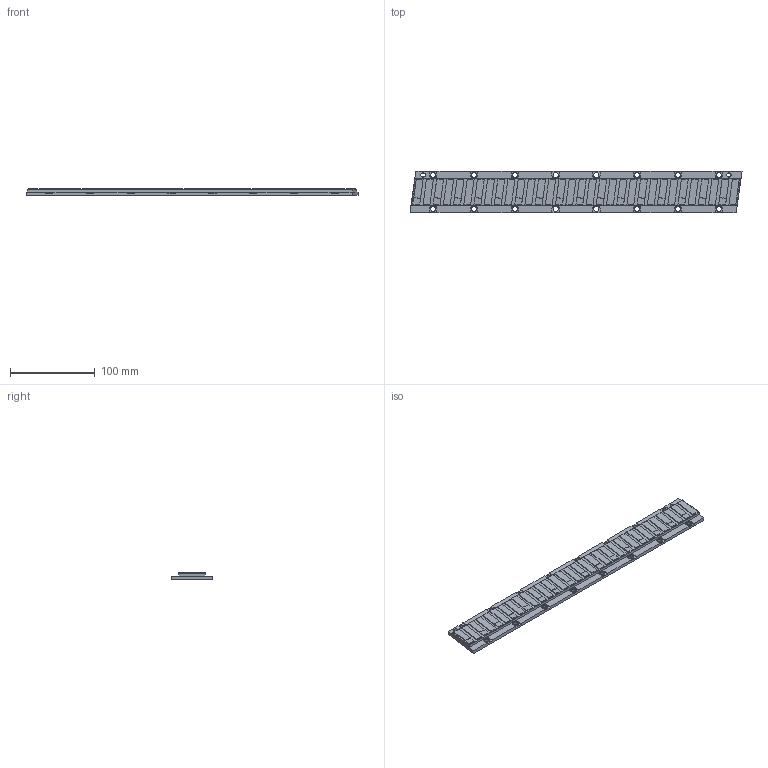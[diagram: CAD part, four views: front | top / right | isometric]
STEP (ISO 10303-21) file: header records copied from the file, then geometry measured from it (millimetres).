
FILE_DESCRIPTION (( 'STEP AP203' ), '1' );
FILE_NAME ('MP49-384.STEP', '2020-12-11T04:59:26', ( '' ), ( '' ), 'SwSTEP 2.0', 'SolidWorks 2018', '' );
FILE_SCHEMA (( 'CONFIG_CONTROL_DESIGN' ));
Length unit declared in the file: millimetre
Products named in the file (1): MP49-384
Bounding box: 390.74 x 49 x 8 mm (x, y, z)
Volume: 115978.8 mm3; surface area: 46281.5 mm2
Topology: 1 solids, 1 shells, 338 faces, 909 edges, 606 vertices
Faces by surface type: plane 285, cylinder 53
Entity records: 10608 total; most frequent: CARTESIAN_POINT 1854, ORIENTED_EDGE 1818, DIRECTION 1693, EDGE_CURVE 909, VECTOR 803, LINE 803, VERTEX_POINT 606, AXIS2_PLACEMENT_3D 445
